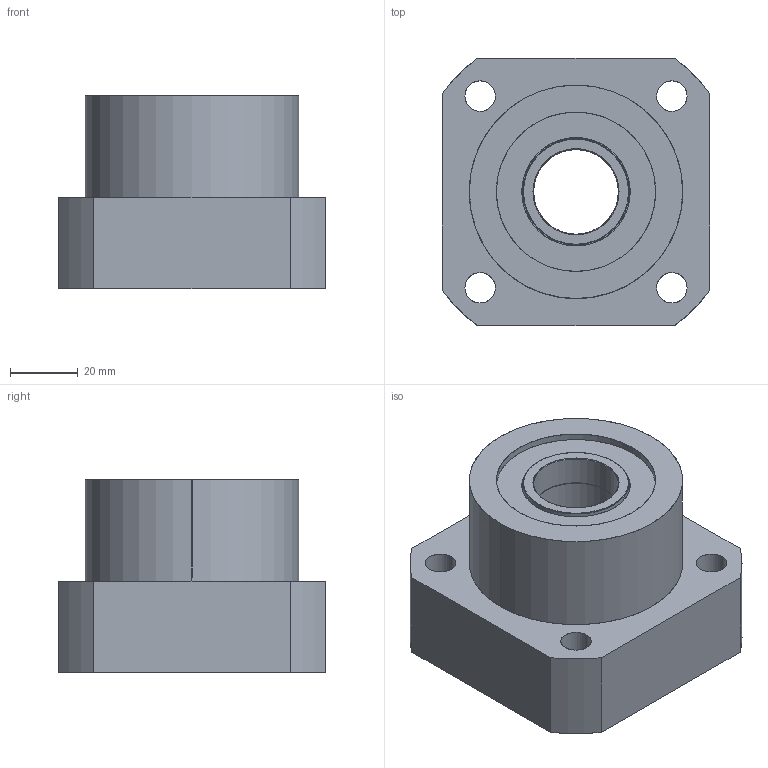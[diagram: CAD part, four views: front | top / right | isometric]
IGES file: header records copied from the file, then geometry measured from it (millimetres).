
Start section: SolidWorks IGES file using analytic representation for surfaces
Global section: file name: E:\同创达图纸\产品示意图\3D选型图\支撑座\FK系列\FK25.IGS; native system: SolidWorks 2012; preprocessor: SolidWorks 2012; author: gao; date: 130702.205231; units: millimetre
Bounding box: 79 x 79 x 57 mm (x, y, z)
Surface area: 38269.1 mm2 (no closed solid volume)
Topology: 0 solids, 0 shells, 75 faces, 1880 edges, 1880 vertices
Faces by surface type: revolution 56, bspline 19
